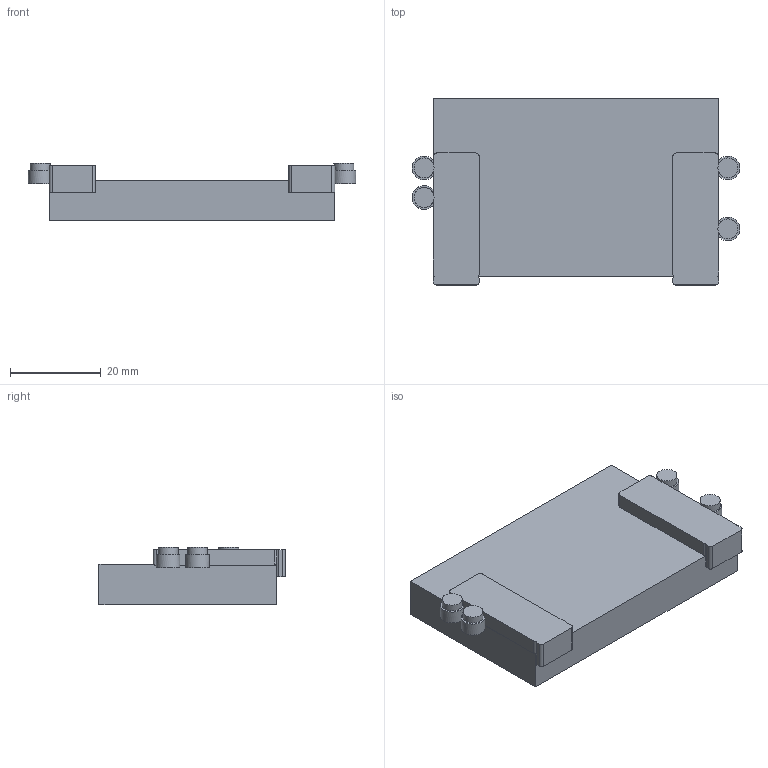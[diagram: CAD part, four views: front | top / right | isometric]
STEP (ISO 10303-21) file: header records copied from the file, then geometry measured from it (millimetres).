
FILE_DESCRIPTION(('Open CASCADE Model'),'2;1');
FILE_NAME('Open CASCADE Shape Model','2026-09-15T13:33:53',('Author'),( 'Open CASCADE'),'Open CASCADE STEP processor 7.7','Open CASCADE 7.7' ,'Unknown');
FILE_SCHEMA(('AUTOMOTIVE_DESIGN { 1 0 10303 214 1 1 1 1 }'));
Length unit declared in the file: millimetre
Products named in the file (1): Open CASCADE STEP translator 7.7 4
Bounding box: 72 x 40.9 x 12.7 mm (x, y, z)
Volume: 24116.5 mm3; surface area: 7653.5 mm2
Topology: 1 solids, 1 shells, 70 faces, 204 edges, 136 vertices
Faces by surface type: plane 46, cylinder 24
Full cylindrical faces by diameter (mm): 4.4 x4
Entity records: 4926 total; most frequent: CARTESIAN_POINT 1039, DIRECTION 686, ORIENTED_EDGE 408, PCURVE 408, DEFINITIONAL_REPRESENTATION 408, LINE 344, VECTOR 344, EDGE_CURVE 204
